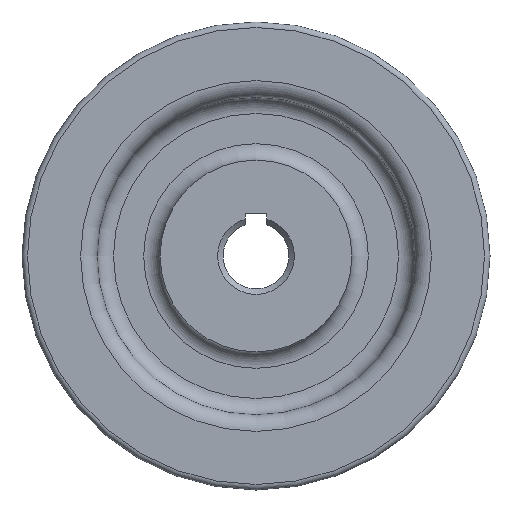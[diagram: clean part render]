
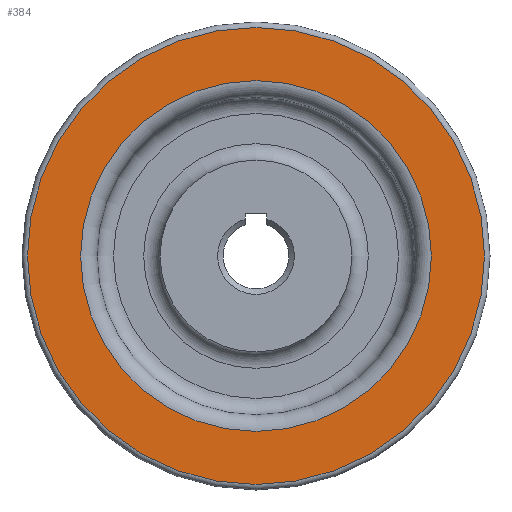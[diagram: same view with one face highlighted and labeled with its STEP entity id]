
A CAD part, left-side view. The second image highlights one B-rep face of the part: STEP entity #384.
In plain terms, the highlighted planar face has unit normal (-1, 0, 0).
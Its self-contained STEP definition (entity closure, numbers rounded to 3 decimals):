
#35=FACE_BOUND('',#139,.T.);
#82=PLANE('',#431);
#99=FACE_OUTER_BOUND('',#138,.T.);
#138=EDGE_LOOP('',(#321));
#139=EDGE_LOOP('',(#322));
#187=CIRCLE('',#430,32.);
#188=CIRCLE('',#432,41.7);
#226=VERTEX_POINT('',#659);
#227=VERTEX_POINT('',#662);
#266=EDGE_CURVE('',#226,#226,#187,.T.);
#267=EDGE_CURVE('',#227,#227,#188,.T.);
#321=ORIENTED_EDGE('',*,*,#267,.F.);
#322=ORIENTED_EDGE('',*,*,#266,.F.);
#384=ADVANCED_FACE('',(#99,#35),#82,.T.);
#430=AXIS2_PLACEMENT_3D('',#660,#523,#524);
#431=AXIS2_PLACEMENT_3D('',#661,#525,#526);
#432=AXIS2_PLACEMENT_3D('',#663,#527,#528);
#523=DIRECTION('center_axis',(-1.,0.,0.));
#524=DIRECTION('ref_axis',(0.,0.,-1.));
#525=DIRECTION('center_axis',(-1.,0.,0.));
#526=DIRECTION('ref_axis',(0.,0.,1.));
#527=DIRECTION('center_axis',(1.,0.,0.));
#528=DIRECTION('ref_axis',(0.,-1.,0.));
#659=CARTESIAN_POINT('',(0.,0.,32.));
#660=CARTESIAN_POINT('Origin',(0.,0.,0.));
#661=CARTESIAN_POINT('Origin',(0.,42.7,0.));
#662=CARTESIAN_POINT('',(0.,41.7,0.));
#663=CARTESIAN_POINT('Origin',(0.,0.,0.));
